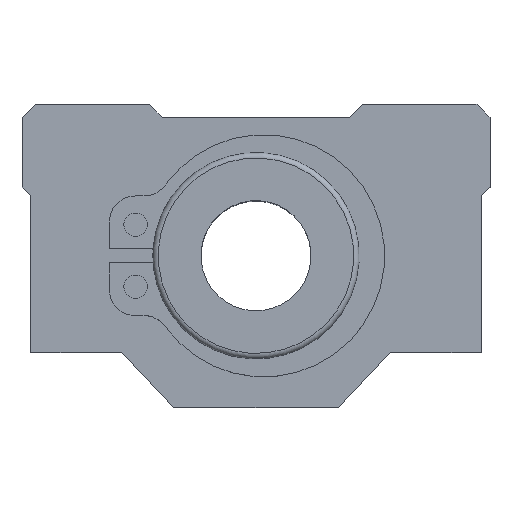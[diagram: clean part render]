
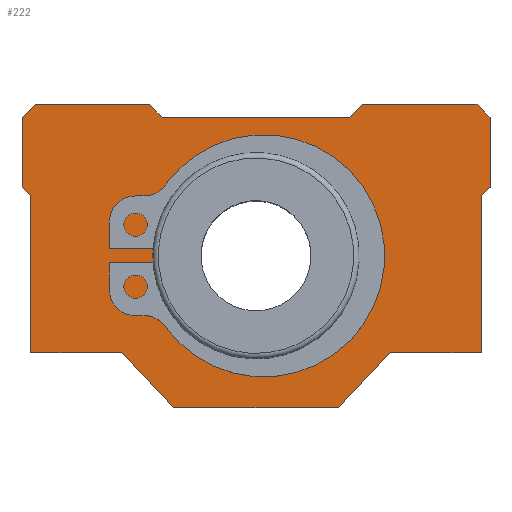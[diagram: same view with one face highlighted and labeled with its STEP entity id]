
A CAD part, top view. The second image highlights one B-rep face of the part: STEP entity #222.
In plain terms, the highlighted planar face has unit normal (0, 0, 1).
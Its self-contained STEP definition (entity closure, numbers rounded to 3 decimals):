
#222=ADVANCED_FACE('',(#298,#299),#300,.T.);
#298=FACE_OUTER_BOUND('',#477,.T.);
#299=FACE_BOUND('',#478,.T.);
#300=PLANE('',#479);
#477=EDGE_LOOP('',(#668,#669,#670,#671,#672,#673,#674,#675,#676,#677,#678,#679,#680,#681,#682,#683,#684,#685));
#478=EDGE_LOOP('',(#686));
#479=AXIS2_PLACEMENT_3D('',#687,#688,#689);
#668=ORIENTED_EDGE('',*,*,#1183,.T.);
#669=ORIENTED_EDGE('',*,*,#1184,.T.);
#670=ORIENTED_EDGE('',*,*,#1185,.T.);
#671=ORIENTED_EDGE('',*,*,#1186,.T.);
#672=ORIENTED_EDGE('',*,*,#1187,.T.);
#673=ORIENTED_EDGE('',*,*,#1188,.T.);
#674=ORIENTED_EDGE('',*,*,#1189,.T.);
#675=ORIENTED_EDGE('',*,*,#1190,.T.);
#676=ORIENTED_EDGE('',*,*,#1191,.T.);
#677=ORIENTED_EDGE('',*,*,#1192,.T.);
#678=ORIENTED_EDGE('',*,*,#1193,.T.);
#679=ORIENTED_EDGE('',*,*,#1194,.T.);
#680=ORIENTED_EDGE('',*,*,#1195,.T.);
#681=ORIENTED_EDGE('',*,*,#1196,.T.);
#682=ORIENTED_EDGE('',*,*,#1197,.T.);
#683=ORIENTED_EDGE('',*,*,#1198,.T.);
#684=ORIENTED_EDGE('',*,*,#1181,.T.);
#685=ORIENTED_EDGE('',*,*,#1176,.T.);
#686=ORIENTED_EDGE('',*,*,#1178,.T.);
#687=CARTESIAN_POINT('',(-11.9,15.156,20.2));
#688=DIRECTION('',(0.0,-0.0,1.0));
#689=DIRECTION('',(0.0,1.0,0.0));
#1176=EDGE_CURVE('',#1335,#1333,#1336,.T.);
#1178=EDGE_CURVE('',#1338,#1338,#1339,.F.);
#1181=EDGE_CURVE('',#1344,#1335,#1345,.T.);
#1183=EDGE_CURVE('',#1333,#1347,#1348,.T.);
#1184=EDGE_CURVE('',#1347,#1349,#1350,.T.);
#1185=EDGE_CURVE('',#1349,#1351,#1352,.T.);
#1186=EDGE_CURVE('',#1351,#1353,#1354,.T.);
#1187=EDGE_CURVE('',#1353,#1355,#1356,.T.);
#1188=EDGE_CURVE('',#1355,#1357,#1358,.T.);
#1189=EDGE_CURVE('',#1357,#1359,#1360,.T.);
#1190=EDGE_CURVE('',#1359,#1361,#1362,.T.);
#1191=EDGE_CURVE('',#1361,#1363,#1364,.T.);
#1192=EDGE_CURVE('',#1363,#1365,#1366,.T.);
#1193=EDGE_CURVE('',#1365,#1367,#1368,.T.);
#1194=EDGE_CURVE('',#1367,#1369,#1370,.T.);
#1195=EDGE_CURVE('',#1369,#1371,#1372,.T.);
#1196=EDGE_CURVE('',#1371,#1373,#1374,.T.);
#1197=EDGE_CURVE('',#1373,#1375,#1376,.T.);
#1198=EDGE_CURVE('',#1375,#1344,#1377,.T.);
#1333=VERTEX_POINT('',#1604);
#1335=VERTEX_POINT('',#1607);
#1336=LINE('',#1608,#1609);
#1338=VERTEX_POINT('',#1612);
#1339=CIRCLE('',#1613,7.5);
#1344=VERTEX_POINT('',#1619);
#1345=LINE('',#1620,#1621);
#1347=VERTEX_POINT('',#1624);
#1348=LINE('',#1625,#1626);
#1349=VERTEX_POINT('',#1627);
#1350=LINE('',#1628,#1629);
#1351=VERTEX_POINT('',#1630);
#1352=LINE('',#1631,#1632);
#1353=VERTEX_POINT('',#1633);
#1354=LINE('',#1634,#1635);
#1355=VERTEX_POINT('',#1636);
#1356=LINE('',#1637,#1638);
#1357=VERTEX_POINT('',#1639);
#1358=LINE('',#1640,#1641);
#1359=VERTEX_POINT('',#1642);
#1360=LINE('',#1643,#1644);
#1361=VERTEX_POINT('',#1645);
#1362=LINE('',#1646,#1647);
#1363=VERTEX_POINT('',#1648);
#1364=LINE('',#1649,#1650);
#1365=VERTEX_POINT('',#1651);
#1366=LINE('',#1652,#1653);
#1367=VERTEX_POINT('',#1654);
#1368=LINE('',#1655,#1656);
#1369=VERTEX_POINT('',#1657);
#1370=LINE('',#1658,#1659);
#1371=VERTEX_POINT('',#1660);
#1372=LINE('',#1661,#1662);
#1373=VERTEX_POINT('',#1663);
#1374=LINE('',#1664,#1665);
#1375=VERTEX_POINT('',#1666);
#1376=LINE('',#1667,#1668);
#1377=LINE('',#1669,#1670);
#1604=CARTESIAN_POINT('',(-6.8,10.056,20.2));
#1607=CARTESIAN_POINT('',(6.8,10.056,20.2));
#1608=CARTESIAN_POINT('',(6.8,10.056,20.2));
#1609=VECTOR('',#1974,1.0);
#1612=CARTESIAN_POINT('',(7.5,0.,20.2));
#1613=AXIS2_PLACEMENT_3D('',#1976,#1977,#1978);
#1619=CARTESIAN_POINT('',(7.744,11.0,20.2));
#1620=CARTESIAN_POINT('',(7.744,11.0,20.2));
#1621=VECTOR('',#1983,1.0);
#1624=CARTESIAN_POINT('',(-7.744,11.0,20.2));
#1625=CARTESIAN_POINT('',(-6.8,10.056,20.2));
#1626=VECTOR('',#1985,1.0);
#1627=CARTESIAN_POINT('',(-16.056,11.0,20.2));
#1628=CARTESIAN_POINT('',(-7.744,11.0,20.2));
#1629=VECTOR('',#1986,1.0);
#1630=CARTESIAN_POINT('',(-17.0,10.056,20.2));
#1631=CARTESIAN_POINT('',(-16.056,11.0,20.2));
#1632=VECTOR('',#1987,1.0);
#1633=CARTESIAN_POINT('',(-17.0,5.0,20.2));
#1634=CARTESIAN_POINT('',(-17.0,10.056,20.2));
#1635=VECTOR('',#1988,1.0);
#1636=CARTESIAN_POINT('',(-16.37,4.37,20.2));
#1637=CARTESIAN_POINT('',(-17.0,5.0,20.2));
#1638=VECTOR('',#1989,1.0);
#1639=CARTESIAN_POINT('',(-16.37,-7.0,20.2));
#1640=CARTESIAN_POINT('',(-16.37,4.37,20.2));
#1641=VECTOR('',#1990,1.0);
#1642=CARTESIAN_POINT('',(-9.759,-7.,20.2));
#1643=CARTESIAN_POINT('',(-16.37,-7.0,20.2));
#1644=VECTOR('',#1991,1.0);
#1645=CARTESIAN_POINT('',(-5.981,-11.0,20.2));
#1646=CARTESIAN_POINT('',(-9.759,-7.,20.2));
#1647=VECTOR('',#1992,1.0);
#1648=CARTESIAN_POINT('',(5.981,-11.0,20.2));
#1649=CARTESIAN_POINT('',(-5.981,-11.0,20.2));
#1650=VECTOR('',#1993,1.0);
#1651=CARTESIAN_POINT('',(9.759,-7.,20.2));
#1652=CARTESIAN_POINT('',(5.981,-11.0,20.2));
#1653=VECTOR('',#1994,1.0);
#1654=CARTESIAN_POINT('',(16.37,-7.,20.2));
#1655=CARTESIAN_POINT('',(9.759,-7.,20.2));
#1656=VECTOR('',#1995,1.0);
#1657=CARTESIAN_POINT('',(16.37,4.374,20.2));
#1658=CARTESIAN_POINT('',(16.37,-7.,20.2));
#1659=VECTOR('',#1996,1.0);
#1660=CARTESIAN_POINT('',(17.0,5.004,20.2));
#1661=CARTESIAN_POINT('',(16.37,4.374,20.2));
#1662=VECTOR('',#1997,1.0);
#1663=CARTESIAN_POINT('',(17.0,10.056,20.2));
#1664=CARTESIAN_POINT('',(17.0,5.004,20.2));
#1665=VECTOR('',#1998,1.0);
#1666=CARTESIAN_POINT('',(16.056,11.0,20.2));
#1667=CARTESIAN_POINT('',(17.0,10.056,20.2));
#1668=VECTOR('',#1999,1.0);
#1669=CARTESIAN_POINT('',(16.056,11.0,20.2));
#1670=VECTOR('',#2000,1.0);
#1974=DIRECTION('',(-1.0,0.0,0.0));
#1976=CARTESIAN_POINT('',(0.0,0.0,20.2));
#1977=DIRECTION('',(0.0,0.0,1.0));
#1978=DIRECTION('',(1.0,0.0,0.0));
#1983=DIRECTION('',(-0.707,-0.707,0.0));
#1985=DIRECTION('',(-0.707,0.707,0.0));
#1986=DIRECTION('',(-1.0,0.0,0.0));
#1987=DIRECTION('',(-0.707,-0.707,0.0));
#1988=DIRECTION('',(0.0,-1.0,0.0));
#1989=DIRECTION('',(0.707,-0.707,0.0));
#1990=DIRECTION('',(0.0,-1.0,0.0));
#1991=DIRECTION('',(1.0,0.,0.0));
#1992=DIRECTION('',(0.687,-0.727,0.0));
#1993=DIRECTION('',(1.0,0.0,0.0));
#1994=DIRECTION('',(0.687,0.727,0.0));
#1995=DIRECTION('',(1.0,0.0,0.0));
#1996=DIRECTION('',(0.,1.0,0.0));
#1997=DIRECTION('',(0.707,0.707,0.0));
#1998=DIRECTION('',(0.0,1.0,0.0));
#1999=DIRECTION('',(-0.707,0.707,0.0));
#2000=DIRECTION('',(-1.0,0.0,0.0));
